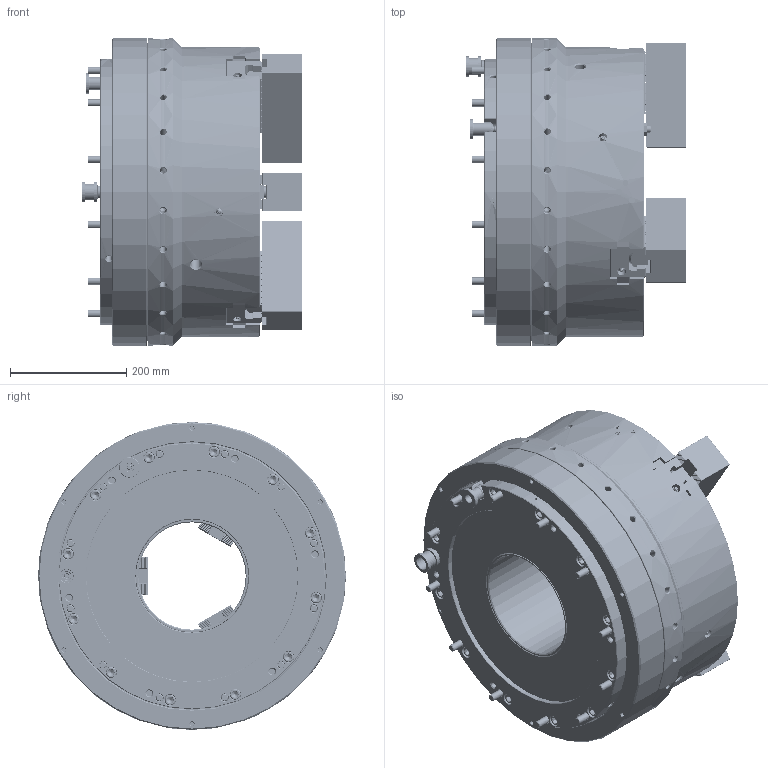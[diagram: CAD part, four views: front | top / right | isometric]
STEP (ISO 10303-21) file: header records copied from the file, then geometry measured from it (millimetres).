
FILE_DESCRIPTION (( 'STEP AP214' ), '1' );
FILE_NAME ('UPR530A185_HUL.STEP', '2025-10-24T02:37:41', ( '' ), ( '' ), 'SwSTEP 2.0', 'SolidWorks 2022', '' );
FILE_SCHEMA (( 'AUTOMOTIVE_DESIGN' ));
Length unit declared in the file: millimetre
Products named in the file (5): Copy of 61P493019^UPR530A185_VIEW; UPR530A185_HUL; Part2^UPR530A185_VIEW; Copy of 0030120050^UPR530A185_VIEW; Copy of 61P372874^UPR530A185_VIEW
Assembly tree (16 placements, depth 2):
  UPR530A185_HUL
    Copy of 61P372874^UPR530A185_VIEW  x3
    Copy of 61P493019^UPR530A185_VIEW  x6
    Copy of 0030120050^UPR530A185_VIEW  x6
    Part2^UPR530A185_VIEW
Bounding box: 379.76 x 530 x 530 mm (x, y, z)
Volume: 49192936.2 mm3; surface area: 2312775.1 mm2
Topology: 17 solids, 33 shells, 9084 faces, 24798 edges, 16134 vertices
Faces by surface type: plane 4756, cylinder 2269, bspline 960, cone 955, torus 132, sphere 12
Entity records: 266576 total; most frequent: CARTESIAN_POINT 95651, ORIENTED_EDGE 38528, DIRECTION 29782, EDGE_CURVE 19264, VERTEX_POINT 12579, VECTOR 12276, LINE 12276, AXIS2_PLACEMENT_3D 8753
